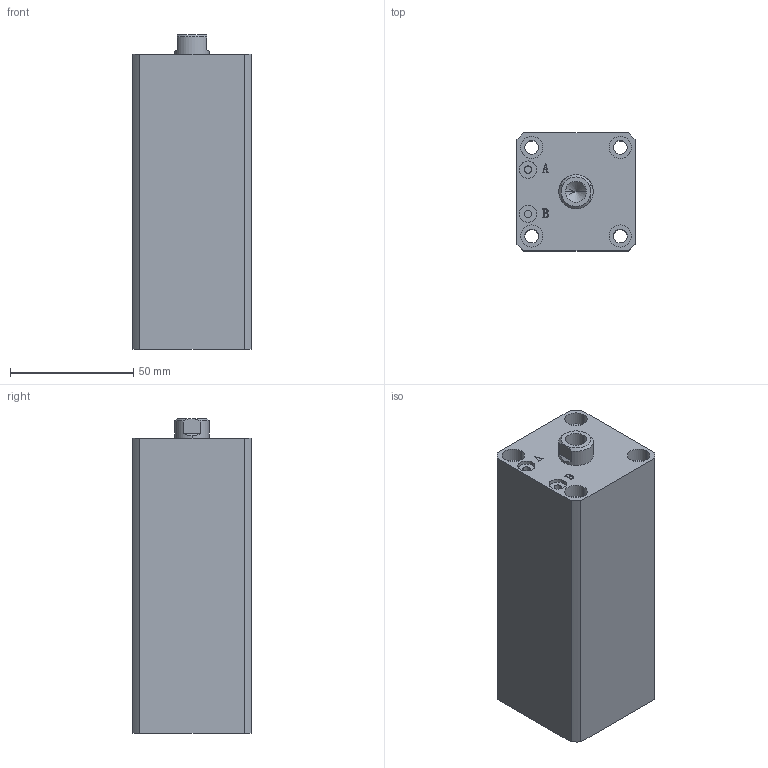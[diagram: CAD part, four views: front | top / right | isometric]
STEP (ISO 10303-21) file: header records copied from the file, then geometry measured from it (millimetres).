
FILE_DESCRIPTION (( 'STEP AP203' ), '1' );
FILE_NAME ('HTB-SDMA25-75N.STEP', '2019-10-07T11:12:04', ( '微软用户' ), ( '微软中国' ), 'SwSTEP 2.0', 'SolidWorks 2012', '' );
FILE_SCHEMA (( 'CONFIG_CONTROL_DESIGN' ));
Length unit declared in the file: millimetre
Products named in the file (3): HTB-SDMA25-75N; HTB-SDMA25-75N活塞杆; HTB-SDMA25-75掛极
Assembly tree (2 placements, depth 2):
  HTB-SDMA25-75N
    HTB-SDMA25-75掛极
    HTB-SDMA25-75N活塞杆
Bounding box: 48 x 48 x 128 mm (x, y, z)
Volume: 235644.6 mm3; surface area: 51764.4 mm2
Topology: 2 solids, 2 shells, 137 faces, 329 edges, 215 vertices
Faces by surface type: plane 65, cylinder 46, bspline 16, torus 6, cone 4
Entity records: 5072 total; most frequent: CARTESIAN_POINT 1592, ORIENTED_EDGE 654, DIRECTION 645, EDGE_CURVE 327, AXIS2_PLACEMENT_3D 232, VERTEX_POINT 215, LINE 181, VECTOR 181
